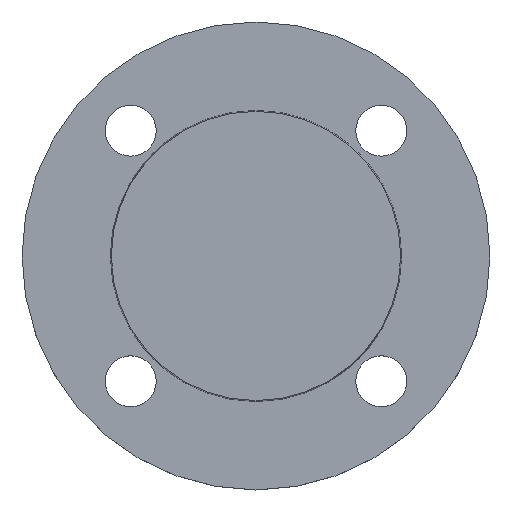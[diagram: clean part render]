
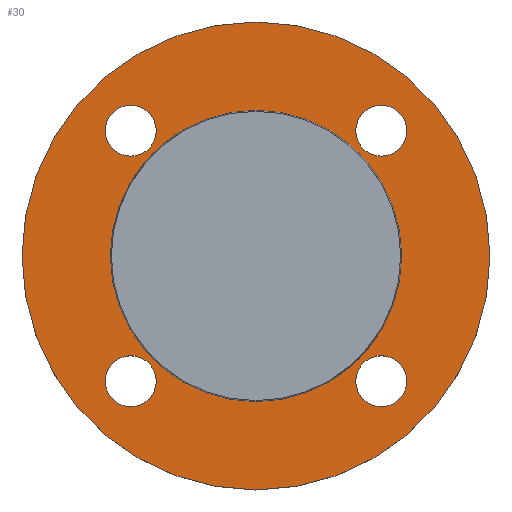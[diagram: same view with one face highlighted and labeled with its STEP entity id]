
A CAD part, top view. The second image highlights one B-rep face of the part: STEP entity #30.
In plain terms, the highlighted planar face has unit normal (0, 0, 1).
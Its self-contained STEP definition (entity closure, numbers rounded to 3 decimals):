
#2 = EDGE_CURVE ( 'NONE', #514, #650, #8, .T. ) ;
#3 = AXIS2_PLACEMENT_3D ( 'NONE', #680, #681, #682 ) ;
#4 = EDGE_CURVE ( 'NONE', #661, #603, #5, .T. ) ;
#5 = CIRCLE ( 'NONE', #3, 9. ) ;
#7 = AXIS2_PLACEMENT_3D ( 'NONE', #677, #678, #679 ) ;
#8 = CIRCLE ( 'NONE', #7, 51.353 ) ;
#12 = AXIS2_PLACEMENT_3D ( 'NONE', #713, #714, #715 ) ;
#30 = ADVANCED_FACE ( 'NONE', ( #703, #704, #705, #706, #707, #710 ), #711, .T. ) ;
#59 = EDGE_CURVE ( 'NONE', #475, #465, #307, .T. ) ;
#81 = AXIS2_PLACEMENT_3D ( 'NONE', #250, #251, #252 ) ;
#97 = CARTESIAN_POINT ( 'NONE',  ( -35.194, -44.194, -2. ) ) ;
#99 = DIRECTION ( 'NONE',  ( -1., 0., 0. ) ) ;
#100 = DIRECTION ( 'NONE',  ( 0., 0., -1. ) ) ;
#101 = CARTESIAN_POINT ( 'NONE',  ( 0., 0., -2. ) ) ;
#102 = CARTESIAN_POINT ( 'NONE',  ( -35.194, 44.194, -2. ) ) ;
#105 = CARTESIAN_POINT ( 'NONE',  ( 53.194, 44.194, -2. ) ) ;
#116 = CARTESIAN_POINT ( 'NONE',  ( -51.353, 0., -2. ) ) ;
#118 = EDGE_CURVE ( 'NONE', #563, #480, #168, .T. ) ;
#140 = CARTESIAN_POINT ( 'NONE',  ( 35.194, 44.194, -2. ) ) ;
#148 = AXIS2_PLACEMENT_3D ( 'NONE', #273, #274, #275 ) ;
#160 = CARTESIAN_POINT ( 'NONE',  ( 82.5, 0., -2. ) ) ;
#163 = CARTESIAN_POINT ( 'NONE',  ( 53.194, -44.194, -2. ) ) ;
#168 = CIRCLE ( 'NONE', #81, 82.5 ) ;
#170 = CARTESIAN_POINT ( 'NONE',  ( -53.194, -44.194, -2. ) ) ;
#171 = CARTESIAN_POINT ( 'NONE',  ( 35.194, -44.194, -2. ) ) ;
#175 = CARTESIAN_POINT ( 'NONE',  ( -53.194, 44.194, -2. ) ) ;
#177 = EDGE_CURVE ( 'NONE', #603, #661, #559, .T. ) ;
#178 = CARTESIAN_POINT ( 'NONE',  ( -44.194, -44.194, -2. ) ) ;
#209 = CIRCLE ( 'NONE', #216, 9. ) ;
#216 = AXIS2_PLACEMENT_3D ( 'NONE', #390, #393, #395 ) ;
#223 = CIRCLE ( 'NONE', #428, 9. ) ;
#250 = CARTESIAN_POINT ( 'NONE',  ( 0., 0., -2. ) ) ;
#251 = DIRECTION ( 'NONE',  ( 0., 0., -1. ) ) ;
#252 = DIRECTION ( 'NONE',  ( -1., 0., 0. ) ) ;
#264 = EDGE_CURVE ( 'NONE', #612, #669, #387, .T. ) ;
#273 = CARTESIAN_POINT ( 'NONE',  ( 44.194, 44.194, -2. ) ) ;
#274 = DIRECTION ( 'NONE',  ( 0., 0., -1. ) ) ;
#275 = DIRECTION ( 'NONE',  ( 1., 0., 0. ) ) ;
#282 = CIRCLE ( 'NONE', #352, 82.5 ) ;
#287 = AXIS2_PLACEMENT_3D ( 'NONE', #374, #375, #379 ) ;
#294 = EDGE_CURVE ( 'NONE', #480, #563, #282, .T. ) ;
#296 = AXIS2_PLACEMENT_3D ( 'NONE', #432, #433, #434 ) ;
#307 = CIRCLE ( 'NONE', #460, 9. ) ;
#325 = CIRCLE ( 'NONE', #287, 9. ) ;
#340 = CARTESIAN_POINT ( 'NONE',  ( 44.194, -44.194, -2. ) ) ;
#341 = DIRECTION ( 'NONE',  ( 0., 0., -1. ) ) ;
#342 = DIRECTION ( 'NONE',  ( 1., 0., 0. ) ) ;
#350 = CIRCLE ( 'NONE', #664, 51.353 ) ;
#352 = AXIS2_PLACEMENT_3D ( 'NONE', #443, #444, #446 ) ;
#357 = CARTESIAN_POINT ( 'NONE',  ( 51.353, 0., -2. ) ) ;
#374 = CARTESIAN_POINT ( 'NONE',  ( -44.194, 44.194, -2. ) ) ;
#375 = DIRECTION ( 'NONE',  ( 0., 0., -1. ) ) ;
#379 = DIRECTION ( 'NONE',  ( 1., 0., 0. ) ) ;
#381 = DIRECTION ( 'NONE',  ( 1., 0., 0. ) ) ;
#383 = CARTESIAN_POINT ( 'NONE',  ( -82.5, 0., -2. ) ) ;
#387 = CIRCLE ( 'NONE', #296, 9. ) ;
#390 = CARTESIAN_POINT ( 'NONE',  ( -44.194, 44.194, -2. ) ) ;
#393 = DIRECTION ( 'NONE',  ( 0., 0., -1. ) ) ;
#395 = DIRECTION ( 'NONE',  ( 1., 0., 0. ) ) ;
#399 = DIRECTION ( 'NONE',  ( 0., 0., -1. ) ) ;
#407 = CIRCLE ( 'NONE', #712, 9. ) ;
#423 = EDGE_CURVE ( 'NONE', #465, #475, #223, .T. ) ;
#428 = AXIS2_PLACEMENT_3D ( 'NONE', #340, #341, #342 ) ;
#432 = CARTESIAN_POINT ( 'NONE',  ( -44.194, -44.194, -2. ) ) ;
#433 = DIRECTION ( 'NONE',  ( 0., 0., -1. ) ) ;
#434 = DIRECTION ( 'NONE',  ( 1., 0., 0. ) ) ;
#436 = EDGE_CURVE ( 'NONE', #477, #667, #325, .T. ) ;
#443 = CARTESIAN_POINT ( 'NONE',  ( 0., 0., -2. ) ) ;
#444 = DIRECTION ( 'NONE',  ( 0., 0., -1. ) ) ;
#446 = DIRECTION ( 'NONE',  ( -1., 0., 0. ) ) ;
#460 = AXIS2_PLACEMENT_3D ( 'NONE', #733, #734, #736 ) ;
#465 = VERTEX_POINT ( 'NONE', #171 ) ;
#467 = EDGE_LOOP ( 'NONE', ( #550, #551 ) ) ;
#473 = EDGE_LOOP ( 'NONE', ( #552, #553 ) ) ;
#475 = VERTEX_POINT ( 'NONE', #163 ) ;
#477 = VERTEX_POINT ( 'NONE', #175 ) ;
#479 = EDGE_CURVE ( 'NONE', #669, #612, #407, .T. ) ;
#480 = VERTEX_POINT ( 'NONE', #383 ) ;
#486 = EDGE_CURVE ( 'NONE', #667, #477, #209, .T. ) ;
#514 = VERTEX_POINT ( 'NONE', #357 ) ;
#543 = ORIENTED_EDGE ( 'NONE', *, *, #59, .T. ) ;
#544 = ORIENTED_EDGE ( 'NONE', *, *, #423, .T. ) ;
#545 = ORIENTED_EDGE ( 'NONE', *, *, #479, .T. ) ;
#546 = ORIENTED_EDGE ( 'NONE', *, *, #264, .T. ) ;
#547 = ORIENTED_EDGE ( 'NONE', *, *, #486, .T. ) ;
#548 = ORIENTED_EDGE ( 'NONE', *, *, #436, .T. ) ;
#550 = ORIENTED_EDGE ( 'NONE', *, *, #4, .T. ) ;
#551 = ORIENTED_EDGE ( 'NONE', *, *, #177, .T. ) ;
#552 = ORIENTED_EDGE ( 'NONE', *, *, #668, .T. ) ;
#553 = ORIENTED_EDGE ( 'NONE', *, *, #2, .T. ) ;
#554 = ORIENTED_EDGE ( 'NONE', *, *, #118, .F. ) ;
#557 = ORIENTED_EDGE ( 'NONE', *, *, #294, .F. ) ;
#559 = CIRCLE ( 'NONE', #148, 9. ) ;
#563 = VERTEX_POINT ( 'NONE', #160 ) ;
#565 = EDGE_LOOP ( 'NONE', ( #554, #557 ) ) ;
#603 = VERTEX_POINT ( 'NONE', #140 ) ;
#612 = VERTEX_POINT ( 'NONE', #170 ) ;
#619 = EDGE_LOOP ( 'NONE', ( #543, #544 ) ) ;
#623 = EDGE_LOOP ( 'NONE', ( #547, #548 ) ) ;
#650 = VERTEX_POINT ( 'NONE', #116 ) ;
#661 = VERTEX_POINT ( 'NONE', #105 ) ;
#664 = AXIS2_PLACEMENT_3D ( 'NONE', #101, #100, #99 ) ;
#666 = EDGE_LOOP ( 'NONE', ( #545, #546 ) ) ;
#667 = VERTEX_POINT ( 'NONE', #102 ) ;
#668 = EDGE_CURVE ( 'NONE', #650, #514, #350, .T. ) ;
#669 = VERTEX_POINT ( 'NONE', #97 ) ;
#677 = CARTESIAN_POINT ( 'NONE',  ( 0., 0., -2. ) ) ;
#678 = DIRECTION ( 'NONE',  ( 0., 0., -1. ) ) ;
#679 = DIRECTION ( 'NONE',  ( -1., 0., 0. ) ) ;
#680 = CARTESIAN_POINT ( 'NONE',  ( 44.194, 44.194, -2. ) ) ;
#681 = DIRECTION ( 'NONE',  ( 0., 0., -1. ) ) ;
#682 = DIRECTION ( 'NONE',  ( 1., 0., 0. ) ) ;
#703 = FACE_BOUND ( 'NONE', #619, .T. ) ;
#704 = FACE_BOUND ( 'NONE', #666, .T. ) ;
#705 = FACE_BOUND ( 'NONE', #623, .T. ) ;
#706 = FACE_BOUND ( 'NONE', #467, .T. ) ;
#707 = FACE_BOUND ( 'NONE', #473, .T. ) ;
#710 = FACE_OUTER_BOUND ( 'NONE', #565, .T. ) ;
#711 = PLANE ( 'NONE',  #12 ) ;
#712 = AXIS2_PLACEMENT_3D ( 'NONE', #178, #399, #381 ) ;
#713 = CARTESIAN_POINT ( 'NONE',  ( 51.353, 0., -2. ) ) ;
#714 = DIRECTION ( 'NONE',  ( 0., 0., 1. ) ) ;
#715 = DIRECTION ( 'NONE',  ( 1., 0., 0. ) ) ;
#733 = CARTESIAN_POINT ( 'NONE',  ( 44.194, -44.194, -2. ) ) ;
#734 = DIRECTION ( 'NONE',  ( 0., 0., -1. ) ) ;
#736 = DIRECTION ( 'NONE',  ( 1., 0., 0. ) ) ;
